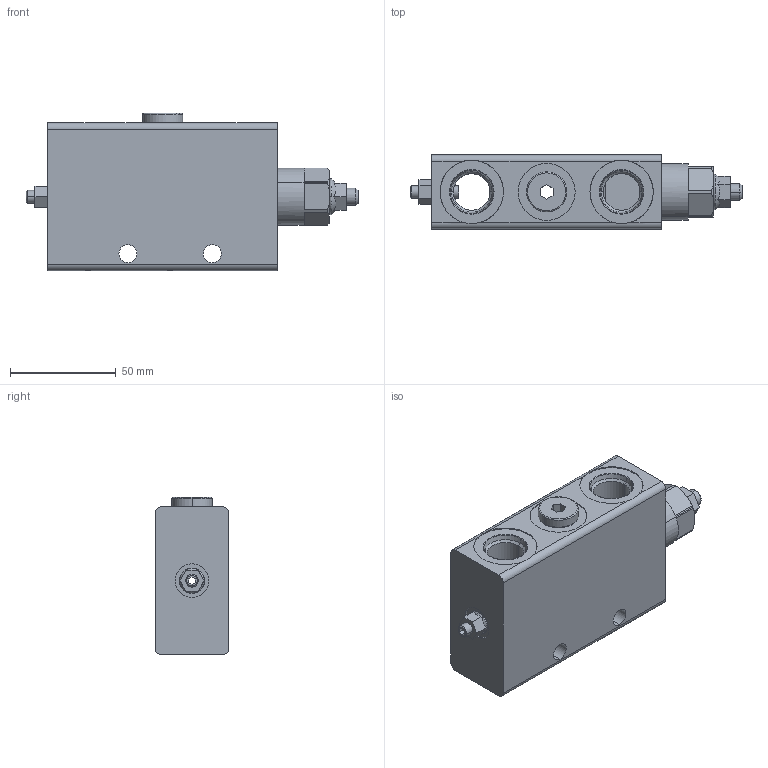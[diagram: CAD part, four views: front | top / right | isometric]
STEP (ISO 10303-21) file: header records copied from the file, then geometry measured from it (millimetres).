
FILE_DESCRIPTION (( 'STEP AP214' ), '1' );
FILE_NAME ('VCS34001.STEP', '2025-06-04T00:26:27', ( '' ), ( '' ), 'SwSTEP 2.0', 'SolidWorks 2023', '' );
FILE_SCHEMA (( 'AUTOMOTIVE_DESIGN' ));
Length unit declared in the file: millimetre
Products named in the file (1): VCS34001
Bounding box: 157.31 x 35 x 74.5 mm (x, y, z)
Surface area: 37689.5 mm2 (no closed solid volume)
Topology: 0 solids, 7 shells, 154 faces, 398 edges, 255 vertices
Faces by surface type: plane 65, cylinder 38, cone 33, torus 18
Entity records: 4911 total; most frequent: CARTESIAN_POINT 1066, DIRECTION 851, ORIENTED_EDGE 746, EDGE_CURVE 398, AXIS2_PLACEMENT_3D 332, VERTEX_POINT 255, LINE 187, VECTOR 187
